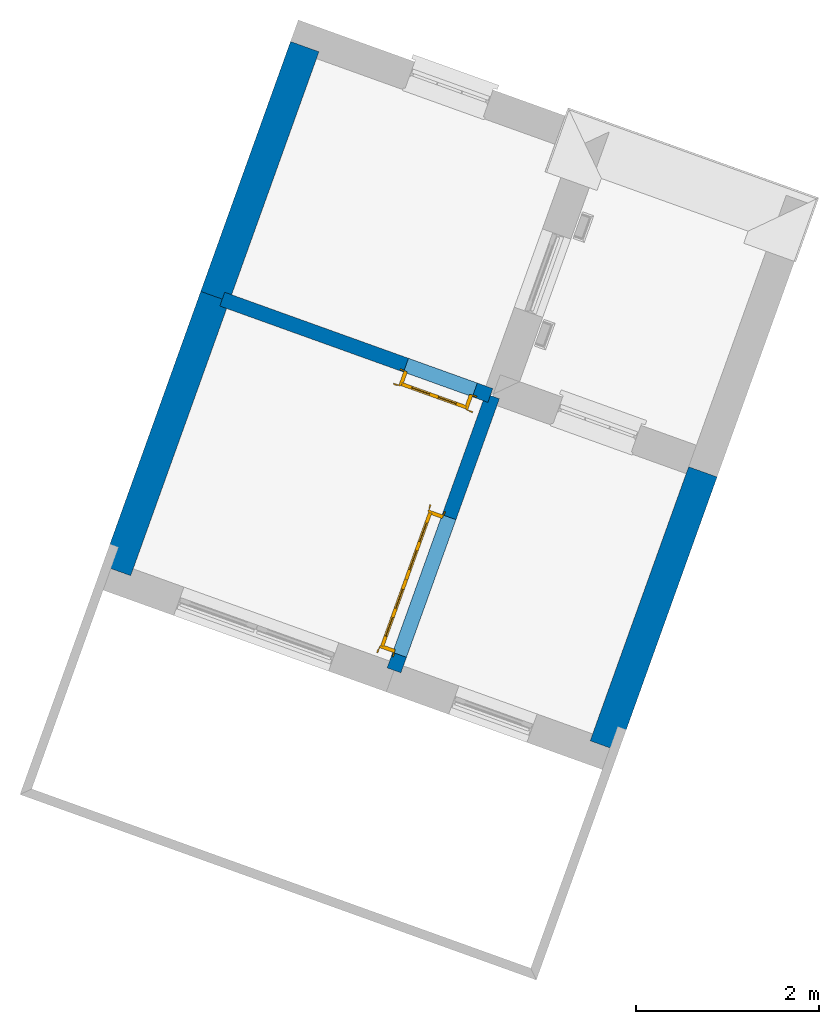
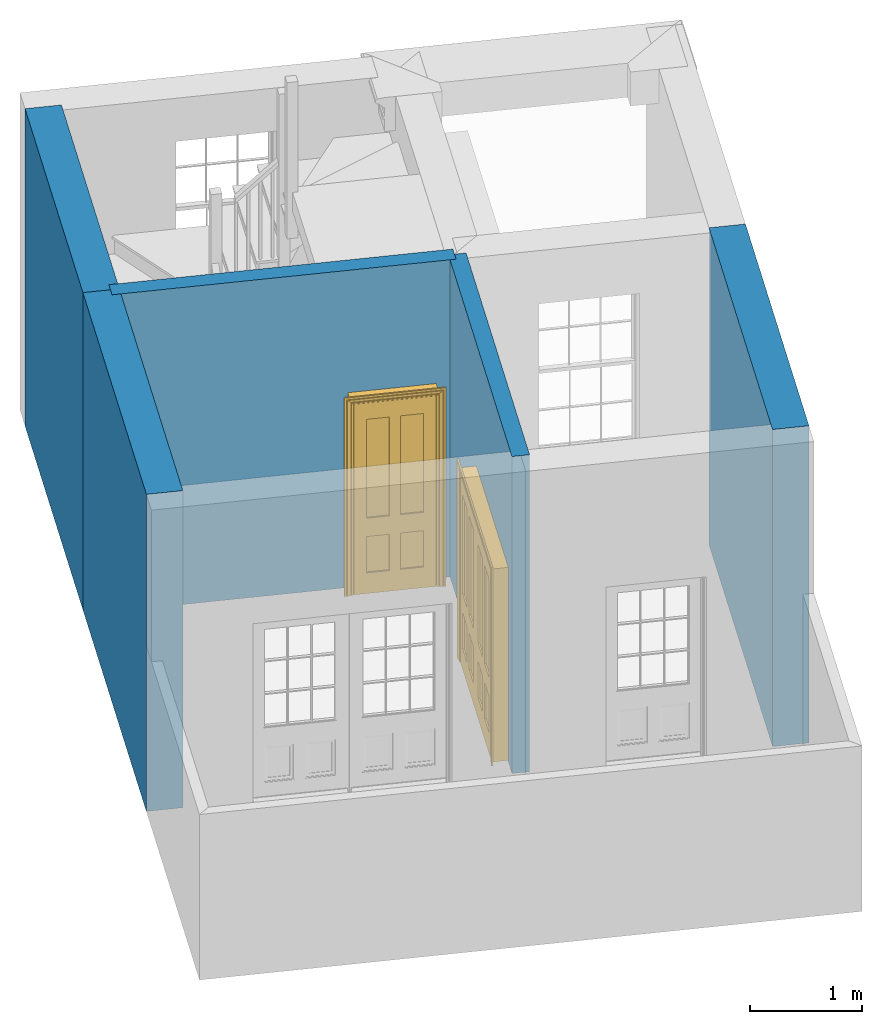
# One storey, part 4 of 8: 5 walls, 2 doors, 2 openings.
"""IFC4 building model written with IfcOpenShell, lengths in metres."""

from ifc_helpers import new_model, si_unit, frame, origin, origin_with_axes, place, context, subcontext, project, spatial, polyline, outline, extrude, faceted_brep, source, transform, mapped, material, layer, layer_set, layer_usage, type_object, type_shapes, element, fill, save


model = new_model("IFC4")

# Units and contexts
model_context = context("Model", 3, world=origin_with_axes())
body_context = subcontext(model_context, "Body", "Model", "MODEL_VIEW")
ifc_project = project(units=[si_unit("PLANEANGLEUNIT", "RADIAN"), si_unit("MASSUNIT", "GRAM", prefix="KILO"), si_unit("FORCEUNIT", "NEWTON", prefix="KILO"), si_unit("LENGTHUNIT", "METRE"), si_unit("AREAUNIT", "SQUARE_METRE"), si_unit("VOLUMEUNIT", "CUBIC_METRE")], contexts=[model_context, model_context])

# Sites, building, storey
site_1_placement = place(None, origin_with_axes())
site_1 = spatial("IfcSite", under=ifc_project, at=site_1_placement, Name="Tamar")
site_2_placement = place(site_1_placement, origin_with_axes())
site_2 = spatial("IfcSite", under=site_1, at=site_2_placement, Name="Site plot-25", CompositionType="ELEMENT")
building_placement = place(None, origin_with_axes())
building = spatial("IfcBuilding", under=site_2, at=building_placement, Name="Building plot-25", CompositionType="ELEMENT")
storey_placement = place(None, frame((0.0, 0.0, 26.0), z_axis=(0.0, 0.0, 1.0), x_axis=(1.0, 0.0, 0.0)))
storey = spatial("IfcBuildingStorey", under=building, at=storey_placement, Name="plot-25 0", CompositionType="ELEMENT", Elevation=26.0)

# Walls
ifc_material_1 = material(Name="Masonry")
ifc_layer_1 = layer(ifc_material_1, 0.33, ventilated=False)
ifc_layer_set_1 = layer_set([ifc_layer_1], Name="party_0.08_0.25")
ifc_layer_usage_1 = layer_usage(ifc_layer_set_1, "AXIS2", "POSITIVE", -0.25)
wall_type_1 = type_object("IfcWallType", Name="party_0.08_0.25", PredefinedType="SOLIDWALL", material=ifc_layer_set_1)
wall_1_placement = place(storey_placement, frame((279.432963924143, 270.205793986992, 0.0), z_axis=(0.0, 0.0, 1.0), x_axis=(0.338164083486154, 0.941087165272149, 0.0)))
element("IfcWall", 1, at=wall_1_placement, inside=storey, type_object=wall_type_1, material=ifc_layer_usage_1, Name="party", context=body_context, shape_type="SweptSolid", body=[
    extrude(outline(polyline([(-4.9156098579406e-15, 0.0799999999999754), (-7.06336881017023e-16, -0.250000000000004), (3.18520048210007, -0.250000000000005), (3.18520048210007, 0.0799999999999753), (-4.9156098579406e-15, 0.0799999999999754)])), origin_with_axes(), (0.0, 0.0, 1.0), 3.45),
])
wall_2_placement = place(storey_placement, frame((276.316198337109, 277.796345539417, 0.0), z_axis=(0.0, 0.0, 1.0), x_axis=(-0.338164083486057, -0.941087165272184, 0.0)))
element("IfcWall", 2, at=wall_2_placement, inside=storey, type_object=wall_type_1, material=ifc_layer_usage_1, Name="party", context=body_context, shape_type="SweptSolid", body=[
    extrude(outline(polyline([(3.39590937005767e-15, 0.0799999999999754), (-2.66300445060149e-14, -0.250000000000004), (2.90419198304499, -0.250000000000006), (2.90419198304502, 0.0799999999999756), (3.39590937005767e-15, 0.0799999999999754)])), origin_with_axes(), (0.0, 0.0, 1.0), 3.45),
])
wall_3_placement = place(storey_placement, frame((275.334104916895, 275.063247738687, 0.0), z_axis=(0.0, 0.0, 1.0), x_axis=(-0.338164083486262, -0.94108716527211, 0.0)))
element("IfcWall", 3, at=wall_3_placement, inside=storey, type_object=wall_type_1, material=ifc_layer_usage_1, Name="party", context=body_context, shape_type="SweptSolid", body=[
    extrude(outline(polyline([(-1.40834419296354e-14, 0.0799999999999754), (2.79929283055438e-14, -0.250000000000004), (3.18520048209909, -0.250000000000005), (3.18520048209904, 0.079999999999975), (-1.40834419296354e-14, 0.0799999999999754)])), origin_with_axes(), (0.0, 0.0, 1.0), 3.45),
])

# Wall, opening, door
ifc_material_2 = material(Name="Masonry")
ifc_layer_2 = layer(ifc_material_2, 0.16, ventilated=False)
ifc_layer_set_2 = layer_set([ifc_layer_2], Name="interior_0.08_0.08")
ifc_layer_usage_2 = layer_usage(ifc_layer_set_2, "AXIS2", "POSITIVE", -0.08)
wall_type_2 = type_object("IfcWallType", Name="interior_0.08_0.08", PredefinedType="SOLIDWALL", material=ifc_layer_set_2)
wall_4_placement = place(storey_placement, frame((277.21220740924, 271.003786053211, 0.0), z_axis=(0.0, 0.0, 1.0), x_axis=(0.338164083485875, 0.941087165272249, 0.0)))
wall_4 = element("IfcWall", 4, at=wall_4_placement, inside=storey, type_object=wall_type_2, material=ifc_layer_usage_2, Name="interior", context=body_context, shape_type="SweptSolid", body=[
    extrude(outline(polyline([(-4.39190622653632e-16, 0.0800000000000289), (4.48987797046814e-16, -0.0800000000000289), (3.18520048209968, -0.0800000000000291), (3.18520048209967, 0.0800000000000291), (-4.39190622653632e-16, 0.0800000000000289)])), origin_with_axes(), (0.0, 0.0, 1.0), 3.45),
])
opening_1_placement = place(wall_4_placement, frame((0.180000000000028, 0.0, 0.0199999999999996)))
opening_1 = element("IfcOpeningElement", 5, at=opening_1_placement, cuts=wall_4, Name="My Opening", ObjectType="Opening", context=body_context, shape_type="SweptSolid", body=[
    extrude(outline(polyline([(0.0, -0.0999999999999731), (1.59999999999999, -0.0999999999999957), (1.59999999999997, 1.09999999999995), (-1.34336985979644e-14, 1.09999999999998), (0.0, -0.0999999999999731)])), origin_with_axes(), (0.0, 0.0, 1.0), 2.1),
])
door_type_1 = type_object("IfcDoorType", Name="door_inside_double", OperationType="SINGLE_SWING_LEFT", PredefinedType="NOTDEFINED")
shared_shape_1 = source(origin(), body_context, "Body", "Brep", [
    faceted_brep([(0.14, 0.307, 1.895), (0.14, 0.307, 0.82), (0.363, 0.307, 0.82), (0.363, 0.307, 1.895), (0.14, 0.292, 1.895), (0.14, 0.292, 0.82), (0.363, 0.292, 0.82), (0.363, 0.292, 1.895), (0.027, 0.292, 1.895), (0.027, 0.292, 0.82), (0.363, 0.292, 0.62), (0.14, 0.292, 0.62), (0.463, 0.292, 0.82), (0.463, 0.292, 1.895), (0.363, 0.292, 2.073), (0.14, 0.292, 2.073), (0.027, 0.292, 2.073), (0.027, 0.33, 1.895), (0.027, 0.33, 0.82), (0.027, 0.292, 0.62), (0.463, 0.292, 0.62), (0.14, 0.307, 0.62), (0.363, 0.307, 0.62), (0.463, 0.307, 0.82), (0.463, 0.307, 1.895), (0.463, 0.292, 2.073), (0.14, 0.33, 2.073), (0.363, 0.33, 2.073), (0.027, 0.33, 2.073), (0.14, 0.33, 1.895), (0.14, 0.33, 0.82), (0.027, 0.33, 0.62), (0.027, 0.292, 0.225), (0.14, 0.292, 0.225), (0.363, 0.292, 0.225), (0.463, 0.292, 0.225), (0.686, 0.292, 0.62), (0.686, 0.292, 0.82), (0.14, 0.307, 0.225), (0.363, 0.307, 0.225), (0.686, 0.307, 0.82), (0.686, 0.307, 1.895), (0.686, 0.292, 1.895), (0.686, 0.292, 2.073), (0.463, 0.33, 2.073), (0.363, 0.33, 1.895), (0.14, 0.315, 1.895), (0.14, 0.315, 0.82), (0.14, 0.33, 0.62), (0.027, 0.33, 0.225), (0.027, 0.292, 0.0), (0.14, 0.292, 0.0), (0.363, 0.292, 0.0), (0.463, 0.292, 0.0), (0.463, 0.307, 0.225), (0.463, 0.307, 0.62), (0.686, 0.307, 0.62), (0.799, 0.292, 0.62), (0.799, 0.292, 0.82), (0.799, 0.292, 1.895), (0.799, 0.292, 2.073), (0.686, 0.33, 2.073), (0.463, 0.33, 1.895), (0.363, 0.315, 1.895), (0.363, 0.315, 0.82), (0.363, 0.33, 0.82), (0.363, 0.33, 0.62), (0.14, 0.33, 0.225), (0.027, 0.33, 0.0), (0.14, 0.33, 0.0), (0.363, 0.33, 0.0), (0.463, 0.33, 0.0), (0.686, 0.292, 0.0), (0.686, 0.292, 0.225), (0.686, 0.307, 0.225), (0.799, 0.292, 0.225), (0.799, 0.33, 0.62), (0.799, 0.33, 0.82), (0.799, 0.33, 1.895), (0.799, 0.33, 2.073), (0.686, 0.33, 1.895), (0.463, 0.33, 0.82), (0.463, 0.33, 0.62), (0.363, 0.315, 0.62), (0.14, 0.315, 0.62), (0.14, 0.315, 0.225), (0.363, 0.33, 0.225), (0.463, 0.33, 0.225), (0.686, 0.33, 0.0), (0.799, 0.292, 0.0), (0.799, 0.33, 0.225), (0.686, 0.33, 0.62), (0.686, 0.33, 0.82), (0.686, 0.315, 1.895), (0.463, 0.315, 1.895), (0.463, 0.315, 0.82), (0.363, 0.315, 0.225), (0.686, 0.33, 0.225), (0.799, 0.33, 0.0), (0.686, 0.315, 0.82), (0.463, 0.315, 0.62), (0.463, 0.315, 0.225), (0.686, 0.315, 0.62), (0.686, 0.315, 0.225), (1.46, 0.33, 1.895), (1.237, 0.33, 1.895), (1.237, 0.33, 2.073), (1.46, 0.33, 2.073), (1.46, 0.315, 1.895), (1.237, 0.315, 1.895), (1.137, 0.33, 1.895), (1.137, 0.33, 2.073), (1.237, 0.292, 2.073), (1.46, 0.292, 2.073), (1.573, 0.33, 1.895), (1.573, 0.33, 2.073), (1.46, 0.33, 0.82), (1.46, 0.315, 0.82), (1.237, 0.315, 0.82), (1.237, 0.33, 0.82), (1.137, 0.33, 0.82), (0.914, 0.33, 2.073), (0.914, 0.33, 1.895), (1.137, 0.292, 2.073), (1.237, 0.292, 1.895), (1.46, 0.292, 1.895), (1.573, 0.292, 2.073), (1.573, 0.33, 0.82), (1.573, 0.292, 1.895), (1.237, 0.33, 0.62), (1.137, 0.33, 0.62), (1.137, 0.315, 0.82), (1.137, 0.315, 1.895), (0.914, 0.292, 2.073), (0.914, 0.315, 1.895), (0.801, 0.33, 2.073), (0.801, 0.33, 1.895), (1.137, 0.292, 1.895), (1.237, 0.307, 1.895), (1.46, 0.307, 1.895), (1.573, 0.292, 0.82), (1.573, 0.33, 0.62), (1.46, 0.33, 0.62), (1.237, 0.33, 0.225), (1.137, 0.33, 0.225), (0.914, 0.33, 0.82), (0.914, 0.33, 0.62), (0.914, 0.315, 0.82), (0.801, 0.292, 2.073), (0.914, 0.292, 1.895), (0.801, 0.33, 0.82), (0.801, 0.292, 1.895), (1.137, 0.292, 0.82), (1.237, 0.292, 0.82), (1.237, 0.307, 0.82), (1.46, 0.307, 0.82), (1.46, 0.292, 0.82), (1.573, 0.292, 0.62), (1.573, 0.33, 0.225), (1.46, 0.33, 0.225), (1.46, 0.315, 0.62), (1.237, 0.315, 0.62), (1.237, 0.33, 0.0), (1.137, 0.33, 0.0), (1.137, 0.315, 0.225), (1.137, 0.315, 0.62), (1.237, 0.315, 0.225), (0.914, 0.315, 0.62), (0.801, 0.33, 0.62), (0.914, 0.307, 1.895), (1.137, 0.307, 1.895), (0.801, 0.292, 0.82), (1.137, 0.292, 0.62), (1.237, 0.292, 0.62), (1.137, 0.307, 0.82), (1.46, 0.292, 0.62), (1.573, 0.292, 0.225), (1.573, 0.33, 0.0), (1.46, 0.33, 0.0), (1.46, 0.315, 0.225), (1.237, 0.292, 0.0), (1.137, 0.292, 0.0), (0.914, 0.33, 0.225), (0.914, 0.33, 0.0), (0.914, 0.315, 0.225), (0.801, 0.33, 0.225), (0.801, 0.292, 0.62), (0.914, 0.292, 0.82), (0.914, 0.307, 0.82), (1.137, 0.292, 0.225), (1.237, 0.292, 0.225), (0.914, 0.292, 0.62), (1.46, 0.292, 0.225), (1.573, 0.292, 0.0), (1.46, 0.292, 0.0), (0.914, 0.292, 0.0), (0.801, 0.33, 0.0), (0.801, 0.292, 0.225), (1.237, 0.307, 0.225), (1.237, 0.307, 0.62), (1.137, 0.307, 0.62), (1.137, 0.307, 0.225), (1.46, 0.307, 0.62), (0.914, 0.307, 0.62), (1.46, 0.307, 0.225), (0.914, 0.292, 0.225), (0.801, 0.292, 0.0), (0.914, 0.307, 0.225), (0.02, 0.335, 0.0), (0.005, 0.34, 0.0), (0.005, 0.34, 2.095), (0.02, 0.335, 2.08), (0.02, 0.33, 0.0), (0.0, 0.335, 0.0), (0.0, 0.335, 2.1), (1.595, 0.34, 2.095), (1.58, 0.335, 2.08), (0.02, 0.33, 2.08), (0.0, 0.33, 0.0), (-0.032, 0.345, 0.0), (-0.032, 0.345, 2.132), (1.6, 0.335, 2.1), (1.595, 0.34, 0.0), (1.58, 0.335, 0.0), (1.58, 0.33, 2.08), (0.025, 0.33, 0.0), (0.025, 0.33, 2.075), (-0.04, 0.34, 0.0), (0.025, 0.29, 0.0), (0.0, 0.17, 0.0), (-0.04, 0.34, 2.14), (1.632, 0.345, 2.132), (1.6, 0.335, 0.0), (1.58, 0.33, 0.0), (1.575, 0.33, 2.075), (0.025, 0.29, 2.075), (-0.06, 0.33, 0.0), (0.035, 0.17, 0.0), (0.0, 0.17, 2.1), (0.0, 0.33, 2.1), (-0.04, 0.345, 0.0), (-0.04, 0.345, 2.14), (1.64, 0.34, 2.14), (1.632, 0.345, 0.0), (1.6, 0.33, 0.0), (1.575, 0.33, 0.0), (1.575, 0.29, 2.075), (0.04, 0.29, 0.0), (0.04, 0.29, 2.06), (-0.06, 0.345, 0.0), (-0.06, 0.33, 2.16), (0.015, 0.165, 0.0), (0.04, 0.17, 0.0), (-0.045, 0.17, 2.145), (-0.045, 0.17, 0.0), (1.6, 0.17, 2.1), (1.6, 0.33, 2.1), (-0.06, 0.345, 2.16), (1.64, 0.345, 2.14), (1.64, 0.34, 0.0), (1.6, 0.17, 0.0), (1.575, 0.29, 0.0), (1.56, 0.29, 2.06), (0.04, 0.17, 2.06), (1.66, 0.33, 2.16), (-0.017, 0.155, 0.0), (-0.025, 0.16, 0.0), (0.02, 0.16, 0.0), (0.035, 0.165, 0.0), (0.035, 0.17, 2.065), (1.645, 0.17, 2.145), (-0.045, 0.155, 2.145), (-0.045, 0.155, 0.0), (1.66, 0.345, 2.16), (1.64, 0.345, 0.0), (1.66, 0.33, 0.0), (1.565, 0.17, 0.0), (1.56, 0.29, 0.0), (1.56, 0.17, 2.06), (-0.017, 0.155, 2.117), (-0.025, 0.16, 2.125), (0.015, 0.165, 2.085), (0.02, 0.16, 2.08), (0.035, 0.165, 2.065), (1.565, 0.17, 2.065), (1.645, 0.17, 0.0), (1.645, 0.155, 2.145), (-0.025, 0.155, 0.0), (1.66, 0.345, 0.0), (1.585, 0.165, 0.0), (1.56, 0.17, 0.0), (1.617, 0.155, 2.117), (1.625, 0.16, 2.125), (-0.025, 0.155, 2.125), (1.585, 0.165, 2.085), (1.58, 0.16, 2.08), (1.565, 0.165, 2.065), (1.625, 0.16, 0.0), (1.645, 0.155, 0.0), (1.625, 0.155, 2.125), (1.617, 0.155, 0.0), (1.565, 0.165, 0.0), (1.58, 0.16, 0.0), (1.625, 0.155, 0.0)], [[[0, 1, 2, 3]], [[1, 0, 4, 5]], [[2, 1, 5, 6]], [[6, 7, 3, 2]], [[7, 4, 0, 3]], [[4, 8, 9, 5]], [[10, 6, 5, 11]], [[6, 12, 13, 7]], [[14, 15, 4, 7]], [[15, 16, 8, 4]], [[9, 8, 17, 18]], [[5, 9, 19, 11]], [[10, 20, 12, 6]], [[10, 11, 21, 22]], [[13, 12, 23, 24]], [[7, 13, 25, 14]], [[26, 15, 14, 27]], [[28, 16, 15, 26]], [[8, 16, 28, 17]], [[17, 29, 30, 18]], [[18, 31, 19, 9]], [[11, 19, 32, 33]], [[34, 35, 20, 10]], [[20, 36, 37, 12]], [[11, 33, 38, 21]], [[39, 22, 21, 38]], [[34, 10, 22, 39]], [[12, 37, 40, 23]], [[24, 23, 40, 41]], [[42, 13, 24, 41]], [[13, 42, 43, 25]], [[14, 25, 44, 27]], [[26, 27, 45, 29]], [[28, 26, 29, 17]], [[30, 29, 46, 47]], [[18, 30, 48, 31]], [[31, 49, 32, 19]], [[33, 32, 50, 51]], [[52, 53, 35, 34]], [[20, 35, 54, 55]], [[36, 20, 55, 56]], [[36, 57, 58, 37]], [[33, 34, 39, 38]], [[37, 42, 41, 40]], [[42, 59, 60, 43]], [[44, 25, 43, 61]], [[62, 45, 27, 44]], [[29, 45, 63, 46]], [[46, 63, 64, 47]], [[65, 30, 47, 64]], [[30, 65, 66, 48]], [[31, 48, 67, 49]], [[68, 50, 32, 49]], [[68, 69, 51, 50]], [[34, 33, 51, 52]], [[53, 52, 70, 71]], [[53, 72, 73, 35]], [[35, 73, 74, 54]], [[55, 54, 74, 56]], [[73, 36, 56, 74]], [[73, 75, 57, 36]], [[57, 76, 77, 58]], [[37, 58, 59, 42]], [[78, 79, 60, 59]], [[60, 79, 61, 43]], [[80, 62, 44, 61]], [[81, 65, 45, 62]], [[45, 65, 64, 63]], [[82, 66, 65, 81]], [[48, 66, 83, 84]], [[67, 48, 84, 85]], [[49, 67, 69, 68]], [[52, 51, 69, 70]], [[71, 70, 86, 87]], [[72, 53, 71, 88]], [[72, 89, 75, 73]], [[75, 90, 76, 57]], [[76, 91, 92, 77]], [[78, 59, 58, 77]], [[78, 80, 61, 79]], [[62, 80, 93, 94]], [[81, 62, 94, 95]], [[87, 86, 66, 82]], [[91, 82, 81, 92]], [[66, 86, 96, 83]], [[84, 83, 96, 85]], [[86, 67, 85, 96]], [[67, 86, 70, 69]], [[88, 71, 87, 97]], [[89, 72, 88, 98]], [[89, 98, 90, 75]], [[90, 97, 91, 76]], [[80, 78, 77, 92]], [[80, 92, 99, 93]], [[99, 95, 94, 93]], [[92, 81, 95, 99]], [[87, 82, 100, 101]], [[82, 91, 102, 100]], [[97, 87, 101, 103]], [[98, 88, 97, 90]], [[91, 97, 103, 102]], [[103, 101, 100, 102]], [[104, 105, 106, 107]], [[105, 104, 108, 109]], [[105, 110, 111, 106]], [[106, 112, 113, 107]], [[114, 104, 107, 115]], [[104, 116, 117, 108]], [[117, 118, 109, 108]], [[119, 105, 109, 118]], [[119, 120, 110, 105]], [[121, 111, 110, 122]], [[123, 112, 106, 111]], [[124, 125, 113, 112]], [[126, 115, 107, 113]], [[104, 114, 127, 116]], [[114, 115, 126, 128]], [[116, 119, 118, 117]], [[129, 130, 120, 119]], [[110, 120, 131, 132]], [[121, 133, 123, 111]], [[122, 110, 132, 134]], [[135, 121, 122, 136]], [[137, 124, 112, 123]], [[125, 124, 138, 139]], [[125, 128, 126, 113]], [[114, 128, 140, 127]], [[141, 142, 116, 127]], [[142, 129, 119, 116]], [[143, 144, 130, 129]], [[145, 120, 130, 146]], [[120, 145, 147, 131]], [[134, 132, 131, 147]], [[135, 148, 133, 121]], [[123, 133, 149, 137]], [[145, 122, 134, 147]], [[136, 122, 145, 150]], [[151, 148, 135, 136]], [[152, 153, 124, 137]], [[124, 153, 154, 138]], [[138, 154, 155, 139]], [[156, 125, 139, 155]], [[156, 140, 128, 125]], [[157, 141, 127, 140]], [[158, 159, 142, 141]], [[129, 142, 160, 161]], [[162, 163, 144, 143]], [[130, 144, 164, 165]], [[143, 129, 161, 166]], [[146, 130, 165, 167]], [[150, 145, 146, 168]], [[133, 148, 151, 149]], [[137, 149, 169, 170]], [[171, 151, 136, 150]], [[172, 173, 153, 152]], [[152, 137, 170, 174]], [[153, 156, 155, 154]], [[175, 157, 140, 156]], [[176, 158, 141, 157]], [[177, 178, 159, 158]], [[142, 159, 179, 160]], [[179, 166, 161, 160]], [[180, 181, 163, 162]], [[182, 144, 163, 183]], [[178, 162, 143, 159]], [[144, 182, 184, 164]], [[167, 165, 164, 184]], [[159, 143, 166, 179]], [[182, 146, 167, 184]], [[168, 146, 182, 185]], [[150, 168, 186, 171]], [[149, 151, 171, 187]], [[149, 187, 188, 169]], [[169, 188, 174, 170]], [[189, 190, 173, 172]], [[173, 175, 156, 153]], [[172, 152, 187, 191]], [[187, 152, 174, 188]], [[192, 176, 157, 175]], [[193, 177, 158, 176]], [[193, 194, 178, 177]], [[181, 180, 190, 189]], [[181, 195, 183, 163]], [[194, 180, 162, 178]], [[185, 182, 183, 196]], [[168, 185, 197, 186]], [[187, 171, 186, 191]], [[173, 190, 198, 199]], [[189, 172, 200, 201]], [[175, 173, 199, 202]], [[172, 191, 203, 200]], [[194, 193, 176, 192]], [[192, 175, 202, 204]], [[180, 194, 192, 190]], [[189, 205, 195, 181]], [[196, 183, 195, 206]], [[196, 206, 197, 185]], [[191, 186, 197, 205]], [[190, 192, 204, 198]], [[199, 198, 204, 202]], [[201, 200, 203, 207]], [[205, 189, 201, 207]], [[191, 205, 207, 203]], [[205, 197, 206, 195]], [[208, 209, 210, 211]], [[208, 212, 213, 209]], [[209, 213, 214, 210]], [[211, 210, 215, 216]], [[211, 217, 212, 208]], [[218, 213, 212]], [[213, 219, 220, 214]], [[210, 214, 221, 215]], [[216, 215, 222, 223]], [[217, 211, 216, 224]], [[225, 212, 217, 226]], [[219, 213, 218, 227]], [[218, 212, 228, 229]], [[219, 227, 230, 220]], [[214, 220, 231, 221]], [[215, 221, 232, 222]], [[222, 232, 233, 223]], [[224, 216, 223, 233]], [[226, 217, 224, 234]], [[225, 228, 212]], [[235, 228, 225, 226]], [[236, 227, 218]], [[237, 229, 228]], [[229, 238, 239, 218]], [[227, 240, 241, 230]], [[220, 230, 242, 231]], [[221, 231, 243, 232]], [[244, 233, 232]], [[234, 224, 233, 245]], [[246, 235, 226, 234]], [[247, 228, 235, 248]], [[240, 227, 236, 249]], [[239, 250, 236, 218]], [[251, 229, 237]], [[252, 237, 228, 247]], [[253, 238, 229, 254]], [[238, 255, 256, 239]], [[241, 240, 257]], [[230, 241, 258, 242]], [[231, 242, 259, 243]], [[259, 244, 232, 243]], [[260, 261, 233, 244]], [[245, 233, 261]], [[261, 246, 234, 245]], [[248, 235, 246, 262]], [[248, 263, 252, 247]], [[250, 257, 249, 236]], [[240, 249, 257]], [[256, 264, 250, 239]], [[265, 266, 229, 251]], [[267, 251, 237, 268]], [[263, 269, 237, 252]], [[270, 255, 238, 253]], [[229, 266, 254]], [[271, 253, 254, 272]], [[256, 255, 260, 244]], [[273, 241, 257]], [[273, 258, 241]], [[242, 258, 274, 259]], [[275, 244, 259]], [[260, 276, 261]], [[261, 277, 262, 246]], [[262, 278, 263, 248]], [[264, 273, 257, 250]], [[244, 275, 264, 256]], [[266, 265, 279, 280]], [[265, 251, 281, 279]], [[251, 267, 282, 281]], [[269, 283, 268, 237]], [[267, 268, 283, 282]], [[278, 284, 269, 263]], [[285, 260, 255, 270]], [[286, 270, 253, 271]], [[272, 254, 266, 287]], [[271, 272, 287]], [[273, 274, 258]], [[288, 275, 259, 274]], [[276, 260, 289]], [[277, 261, 276, 290]], [[278, 262, 277, 290]], [[275, 288, 273, 264]], [[280, 279, 291, 292]], [[287, 266, 280, 293]], [[279, 281, 294, 291]], [[281, 282, 295, 294]], [[284, 296, 283, 269]], [[282, 283, 296, 295]], [[290, 276, 284, 278]], [[285, 297, 260]], [[298, 285, 270, 286]], [[299, 286, 271]], [[271, 287, 293]], [[273, 288, 274]], [[300, 289, 260, 297]], [[301, 276, 289, 302]], [[292, 291, 300, 297]], [[293, 280, 292, 299]], [[291, 294, 289, 300]], [[294, 295, 302, 289]], [[296, 284, 276, 301]], [[295, 296, 301, 302]], [[303, 297, 285, 298]], [[299, 298, 286]], [[271, 293, 299]], [[299, 292, 297, 303]], [[299, 303, 298]]]),
])
type_shapes(door_type_1, [shared_shape_1])
door_1_placement = place(storey_placement, frame((277.367185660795, 271.139365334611, 0.0199999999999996), z_axis=(0.0, 0.0, 1.0), x_axis=(0.541062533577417, 1.50573946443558, 0.0)))
door_1 = element("IfcDoor", 6, at=door_1_placement, inside=storey, type_object=door_type_1, Name="kitchen living inside door", OverallHeight=2.1, OverallWidth=1.6, context=body_context, shape_type="MappedRepresentation", body=[
    mapped(shared_shape_1, transform((0.0, 0.0, 0.0), scale=1.0)),
])
fill(opening_1, door_1)

wall_5_placement = place(storey_placement, frame((278.265727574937, 274.009817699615, 0.0), z_axis=(0.0, 0.0, 1.0), x_axis=(-0.941087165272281, 0.338164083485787, 0.0)))
wall_5 = element("IfcWall", 7, at=wall_5_placement, inside=storey, type_object=wall_type_2, material=ifc_layer_usage_2, Name="interior", context=body_context, shape_type="SweptSolid", body=[
    extrude(outline(polyline([(7.07479880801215e-15, 0.0800000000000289), (-7.06500163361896e-15, -0.0800000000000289), (3.1151446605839, -0.080000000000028), (3.11514466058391, 0.0800000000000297), (7.07479880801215e-15, 0.0800000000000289)])), origin_with_axes(), (0.0, 0.0, 1.0), 3.45),
])
opening_2_placement = place(wall_5_placement, frame((0.180000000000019, 0.0, 0.0199999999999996)))
opening_2 = element("IfcOpeningElement", 8, at=opening_2_placement, cuts=wall_5, Name="My Opening", ObjectType="Opening", context=body_context, shape_type="SweptSolid", body=[
    extrude(outline(polyline([(0.0, -0.09999999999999), (0.799999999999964, -0.0999999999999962), (0.799999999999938, 1.09999999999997), (-2.71449529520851e-14, 1.09999999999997), (0.0, -0.09999999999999)])), origin_with_axes(), (0.0, 0.0, 1.0), 2.1),
])
door_type_2 = type_object("IfcDoorType", Name="door_inside", OperationType="SINGLE_SWING_LEFT", PredefinedType="NOTDEFINED")
shared_shape_2 = source(origin(), body_context, "Body", "Brep", [
    faceted_brep([(0.773, 0.33, 1.895), (0.66, 0.33, 1.895), (0.66, 0.33, 2.073), (0.773, 0.33, 2.073), (0.773, 0.33, 0.82), (0.66, 0.33, 0.82), (0.45, 0.33, 1.895), (0.45, 0.33, 2.073), (0.773, 0.33, 0.62), (0.66, 0.33, 0.62), (0.66, 0.315, 0.82), (0.66, 0.315, 1.895), (0.45, 0.315, 1.895), (0.35, 0.33, 1.895), (0.35, 0.33, 2.073), (0.773, 0.33, 0.225), (0.66, 0.33, 0.225), (0.45, 0.33, 0.62), (0.45, 0.33, 0.82), (0.45, 0.315, 0.82), (0.35, 0.33, 0.82), (0.14, 0.33, 2.073), (0.14, 0.33, 1.895), (0.773, 0.33, 0.0), (0.66, 0.33, 0.0), (0.66, 0.315, 0.225), (0.66, 0.315, 0.62), (0.45, 0.315, 0.62), (0.35, 0.33, 0.62), (0.35, 0.315, 0.82), (0.35, 0.315, 1.895), (0.14, 0.315, 1.895), (0.027, 0.33, 2.073), (0.027, 0.33, 1.895), (0.773, 0.292, 0.0), (0.66, 0.292, 0.0), (0.45, 0.33, 0.0), (0.45, 0.33, 0.225), (0.45, 0.315, 0.225), (0.35, 0.33, 0.225), (0.14, 0.33, 0.82), (0.14, 0.33, 0.62), (0.14, 0.315, 0.82), (0.027, 0.33, 0.82), (0.773, 0.292, 0.225), (0.66, 0.292, 0.225), (0.45, 0.292, 0.0), (0.35, 0.33, 0.0), (0.35, 0.315, 0.225), (0.35, 0.315, 0.62), (0.14, 0.315, 0.62), (0.027, 0.33, 0.62), (0.773, 0.292, 0.62), (0.66, 0.292, 0.62), (0.45, 0.292, 0.225), (0.35, 0.292, 0.0), (0.14, 0.33, 0.225), (0.14, 0.33, 0.0), (0.14, 0.315, 0.225), (0.027, 0.33, 0.225), (0.773, 0.292, 0.82), (0.66, 0.292, 0.82), (0.66, 0.307, 0.62), (0.66, 0.307, 0.225), (0.45, 0.307, 0.225), (0.35, 0.292, 0.225), (0.14, 0.292, 0.0), (0.027, 0.33, 0.0), (0.773, 0.292, 1.895), (0.66, 0.292, 1.895), (0.45, 0.292, 0.62), (0.45, 0.292, 0.82), (0.45, 0.307, 0.62), (0.35, 0.292, 0.62), (0.14, 0.292, 0.225), (0.027, 0.292, 0.0), (0.773, 0.292, 2.073), (0.66, 0.292, 2.073), (0.66, 0.307, 1.895), (0.66, 0.307, 0.82), (0.45, 0.307, 0.82), (0.35, 0.292, 0.82), (0.35, 0.307, 0.62), (0.35, 0.307, 0.225), (0.14, 0.307, 0.225), (0.027, 0.292, 0.225), (0.45, 0.292, 1.895), (0.45, 0.292, 2.073), (0.45, 0.307, 1.895), (0.35, 0.292, 1.895), (0.14, 0.292, 0.82), (0.14, 0.292, 0.62), (0.14, 0.307, 0.62), (0.027, 0.292, 0.62), (0.35, 0.292, 2.073), (0.35, 0.307, 1.895), (0.35, 0.307, 0.82), (0.14, 0.307, 0.82), (0.027, 0.292, 0.82), (0.14, 0.292, 2.073), (0.14, 0.292, 1.895), (0.14, 0.307, 1.895), (0.027, 0.292, 1.895), (0.027, 0.292, 2.073), (0.02, 0.335, 0.0), (0.005, 0.34, 0.0), (0.005, 0.34, 2.095), (0.02, 0.335, 2.08), (0.02, 0.33, 0.0), (0.0, 0.335, 0.0), (0.0, 0.335, 2.1), (0.795, 0.34, 2.095), (0.78, 0.335, 2.08), (0.02, 0.33, 2.08), (0.0, 0.33, 0.0), (-0.032, 0.345, 0.0), (-0.032, 0.345, 2.132), (0.8, 0.335, 2.1), (0.795, 0.34, 0.0), (0.78, 0.335, 0.0), (0.78, 0.33, 2.08), (0.04, 0.29, 0.0), (0.025, 0.29, 0.0), (0.025, 0.29, 2.075), (0.04, 0.29, 2.06), (-0.04, 0.34, 0.0), (-0.04, 0.34, 2.14), (0.832, 0.345, 2.132), (0.8, 0.335, 0.0), (0.78, 0.33, 0.0), (0.8, 0.33, 0.0), (0.86, 0.33, 0.0), (0.86, 0.33, 2.16), (0.8, 0.33, 2.1), (-0.06, 0.33, 2.16), (0.0, 0.33, 2.1), (-0.06, 0.33, 0.0), (-0.04, 0.345, 0.0), (-0.04, 0.345, 2.14), (0.84, 0.34, 2.14), (0.832, 0.345, 0.0), (0.84, 0.34, 0.0), (0.86, 0.345, 0.0), (0.86, 0.345, 2.16), (-0.06, 0.345, 2.16), (-0.06, 0.345, 0.0), (0.84, 0.345, 0.0), (0.84, 0.345, 2.14), (-0.025, 0.155, 0.0), (-0.025, 0.16, 0.0), (-0.025, 0.16, 2.125), (-0.025, 0.155, 2.125), (-0.017, 0.155, 0.0), (-0.017, 0.155, 2.117), (0.825, 0.16, 2.125), (0.825, 0.155, 2.125), (0.825, 0.155, 0.0), (0.845, 0.155, 0.0), (-0.045, 0.155, 2.145), (-0.045, 0.155, 0.0), (0.845, 0.155, 2.145), (0.015, 0.165, 0.0), (0.015, 0.165, 2.085), (0.817, 0.155, 2.117), (0.825, 0.16, 0.0), (0.845, 0.17, 0.0), (0.845, 0.17, 2.145), (-0.045, 0.17, 2.145), (-0.045, 0.17, 0.0), (0.02, 0.16, 0.0), (0.02, 0.16, 2.08), (0.785, 0.165, 2.085), (0.817, 0.155, 0.0), (0.8, 0.17, 0.0), (0.8, 0.17, 2.1), (0.0, 0.17, 2.1), (0.0, 0.17, 0.0), (0.035, 0.165, 0.0), (0.035, 0.165, 2.065), (0.78, 0.16, 2.08), (0.785, 0.165, 0.0), (0.775, 0.29, 2.075), (0.76, 0.29, 2.06), (0.035, 0.17, 2.065), (0.035, 0.17, 0.0), (0.765, 0.165, 2.065), (0.78, 0.16, 0.0), (0.765, 0.17, 0.0), (0.765, 0.17, 2.065), (0.765, 0.165, 0.0), (0.04, 0.17, 2.06), (0.04, 0.17, 0.0), (0.76, 0.17, 2.06), (0.76, 0.17, 0.0), (0.76, 0.29, 0.0), (0.775, 0.29, 0.0), (0.025, 0.33, 0.0), (0.025, 0.33, 2.075), (0.775, 0.33, 0.0), (0.775, 0.33, 2.075)], [[[0, 1, 2, 3]], [[1, 0, 4, 5]], [[1, 6, 7, 2]], [[8, 9, 5, 4]], [[1, 5, 10, 11]], [[6, 1, 11, 12]], [[6, 13, 14, 7]], [[15, 16, 9, 8]], [[9, 17, 18, 5]], [[5, 18, 19, 10]], [[10, 19, 12, 11]], [[18, 6, 12, 19]], [[18, 20, 13, 6]], [[21, 14, 13, 22]], [[23, 24, 16, 15]], [[9, 16, 25, 26]], [[17, 9, 26, 27]], [[17, 28, 20, 18]], [[13, 20, 29, 30]], [[22, 13, 30, 31]], [[32, 21, 22, 33]], [[34, 35, 24, 23]], [[24, 36, 37, 16]], [[16, 37, 38, 25]], [[25, 38, 27, 26]], [[37, 17, 27, 38]], [[37, 39, 28, 17]], [[40, 20, 28, 41]], [[20, 40, 42, 29]], [[31, 30, 29, 42]], [[40, 22, 31, 42]], [[33, 22, 40, 43]], [[35, 34, 44, 45]], [[35, 46, 36, 24]], [[36, 47, 39, 37]], [[28, 39, 48, 49]], [[41, 28, 49, 50]], [[43, 40, 41, 51]], [[45, 44, 52, 53]], [[46, 35, 45, 54]], [[46, 55, 47, 36]], [[56, 39, 47, 57]], [[39, 56, 58, 48]], [[50, 49, 48, 58]], [[56, 41, 50, 58]], [[51, 41, 56, 59]], [[53, 52, 60, 61]], [[45, 53, 62, 63]], [[54, 45, 63, 64]], [[55, 46, 54, 65]], [[55, 66, 57, 47]], [[59, 56, 57, 67]], [[61, 60, 68, 69]], [[70, 53, 61, 71]], [[53, 70, 72, 62]], [[72, 64, 63, 62]], [[70, 54, 64, 72]], [[65, 54, 70, 73]], [[65, 74, 66, 55]], [[67, 57, 66, 75]], [[69, 68, 76, 77]], [[61, 69, 78, 79]], [[71, 61, 79, 80]], [[73, 70, 71, 81]], [[65, 73, 82, 83]], [[74, 65, 83, 84]], [[74, 85, 75, 66]], [[86, 69, 77, 87]], [[69, 86, 88, 78]], [[88, 80, 79, 78]], [[86, 71, 80, 88]], [[81, 71, 86, 89]], [[73, 81, 90, 91]], [[73, 91, 92, 82]], [[83, 82, 92, 84]], [[91, 74, 84, 92]], [[91, 93, 85, 74]], [[89, 86, 87, 94]], [[81, 89, 95, 96]], [[90, 81, 96, 97]], [[90, 98, 93, 91]], [[94, 99, 100, 89]], [[89, 100, 101, 95]], [[101, 97, 96, 95]], [[100, 90, 97, 101]], [[100, 102, 98, 90]], [[99, 103, 102, 100]], [[32, 103, 99, 21]], [[102, 103, 32, 33]], [[98, 102, 33, 43]], [[21, 99, 94, 14]], [[94, 87, 7, 14]], [[7, 87, 77, 2]], [[76, 3, 2, 77]], [[43, 51, 93, 98]], [[51, 59, 85, 93]], [[67, 75, 85, 59]], [[34, 23, 15, 44]], [[44, 15, 8, 52]], [[52, 8, 4, 60]], [[0, 68, 60, 4]], [[0, 3, 76, 68]], [[104, 105, 106, 107]], [[104, 108, 109, 105]], [[105, 109, 110, 106]], [[107, 106, 111, 112]], [[107, 113, 108, 104]], [[114, 109, 108]], [[109, 115, 116, 110]], [[106, 110, 117, 111]], [[112, 111, 118, 119]], [[113, 107, 112, 120]], [[121, 122, 123, 124]], [[115, 109, 114, 125]], [[115, 125, 126, 116]], [[110, 116, 127, 117]], [[111, 117, 128, 118]], [[118, 128, 129, 119]], [[120, 112, 119, 129]], [[130, 129, 128]], [[130, 131, 132, 133]], [[133, 132, 134, 135]], [[135, 134, 136, 114]], [[136, 125, 114]], [[125, 137, 138, 126]], [[116, 126, 139, 127]], [[117, 127, 140, 128]], [[141, 130, 128, 140]], [[131, 130, 141]], [[131, 142, 143, 132]], [[132, 143, 144, 134]], [[134, 144, 145, 136]], [[137, 125, 136, 145]], [[143, 142, 146]], [[143, 146, 147]], [[137, 145, 144]], [[143, 147, 138]], [[138, 137, 144]], [[143, 138, 144]], [[126, 138, 147, 139]], [[127, 139, 141, 140]], [[142, 131, 141, 146]], [[139, 147, 146, 141]], [[148, 149, 150, 151]], [[149, 152, 153, 150]], [[151, 150, 154, 155]], [[155, 156, 157]], [[158, 159, 148]], [[158, 148, 151]], [[155, 157, 160]], [[158, 151, 155]], [[155, 160, 158]], [[152, 161, 162, 153]], [[150, 153, 163, 154]], [[155, 154, 164, 156]], [[156, 164, 165, 157]], [[157, 165, 166, 160]], [[160, 166, 167, 158]], [[158, 167, 168, 159]], [[161, 169, 170, 162]], [[153, 162, 171, 163]], [[154, 163, 172, 164]], [[165, 164, 173]], [[165, 173, 174, 166]], [[166, 174, 175, 167]], [[167, 175, 176, 168]], [[169, 177, 178, 170]], [[162, 170, 179, 171]], [[163, 171, 180, 172]], [[172, 180, 173, 164]], [[124, 123, 181, 182]], [[183, 178, 177, 184]], [[170, 178, 185, 179]], [[171, 179, 186, 180]], [[187, 173, 180]], [[185, 188, 187, 189]], [[188, 185, 178, 183]], [[179, 185, 189, 186]], [[189, 187, 180, 186]], [[190, 183, 184, 191]], [[192, 188, 183, 190]], [[191, 184, 122, 121]], [[124, 190, 191, 121]], [[193, 187, 188, 192]], [[182, 192, 190, 124]], [[184, 176, 122]], [[194, 195, 187, 193]], [[192, 182, 194, 193]], [[161, 176, 184]], [[114, 108, 122, 176]], [[173, 187, 195]], [[152, 149, 176, 161]], [[169, 161, 184, 177]], [[196, 122, 108]], [[176, 175, 135, 114]], [[173, 195, 129, 130]], [[176, 149, 168]], [[123, 122, 196, 197]], [[196, 108, 113, 197]], [[175, 174, 133, 135]], [[198, 129, 195]], [[133, 174, 173, 130]], [[159, 168, 149, 148]], [[181, 123, 197, 199]], [[197, 113, 120, 199]], [[199, 120, 129, 198]], [[195, 181, 199, 198]], [[195, 194, 182, 181]]]),
])
type_shapes(door_type_2, [shared_shape_2])
door_2_placement = place(storey_placement, frame((278.130148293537, 274.16479595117, 0.0199999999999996), z_axis=(0.0, 0.0, 1.0), x_axis=(-0.752869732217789, 0.270531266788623, 0.0)))
door_2 = element("IfcDoor", 9, at=door_2_placement, inside=storey, type_object=door_type_2, Name="living inside door", OverallHeight=2.1, OverallWidth=0.8, context=body_context, shape_type="MappedRepresentation", body=[
    mapped(shared_shape_2, transform((0.0, 0.0, 0.0), scale=1.0)),
])
fill(opening_2, door_2)

save(model, "model.ifc")
